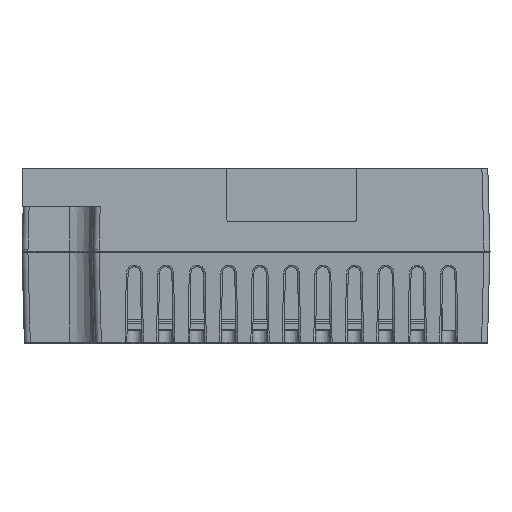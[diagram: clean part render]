
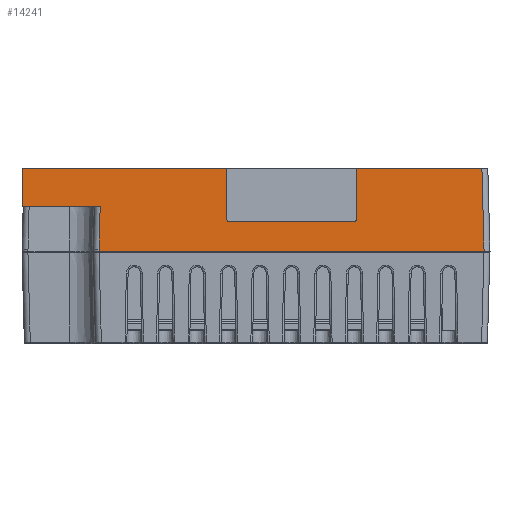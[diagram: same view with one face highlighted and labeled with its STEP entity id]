
A CAD part, left-side view. The second image highlights one B-rep face of the part: STEP entity #14241.
In plain terms, the highlighted planar face has unit normal (-1, 0, 0.026).
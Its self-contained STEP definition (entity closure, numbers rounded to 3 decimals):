
#758 = VERTEX_POINT ( 'NONE', #13399 ) ;
#1637 = VERTEX_POINT ( 'NONE', #1828 ) ;
#1828 = CARTESIAN_POINT ( 'NONE',  ( 0.144, 44.5, 5.503 ) ) ;
#1846 = EDGE_CURVE ( 'NONE', #4506, #6781, #22073, .T. ) ;
#2001 = LINE ( 'NONE', #32706, #17920 ) ;
#2066 = VERTEX_POINT ( 'NONE', #22941 ) ;
#2739 = EDGE_CURVE ( 'NONE', #6224, #6781, #31499, .T. ) ;
#2807 = CARTESIAN_POINT ( 'NONE',  ( 0.144, 44., 5.503 ) ) ;
#3586 = ORIENTED_EDGE ( 'NONE', *, *, #1846, .F. ) ;
#3678 = EDGE_CURVE ( 'NONE', #21504, #13256, #19893, .T. ) ;
#3703 = CARTESIAN_POINT ( 'NONE',  ( 0.196, 8.5, 7.5 ) ) ;
#3931 = CARTESIAN_POINT ( 'NONE',  ( 0.473, 22.5, 18.045 ) ) ;
#4506 = VERTEX_POINT ( 'NONE', #33356 ) ;
#4880 = ORIENTED_EDGE ( 'NONE', *, *, #29630, .T. ) ;
#5146 = ORIENTED_EDGE ( 'NONE', *, *, #37534, .T. ) ;
#6014 = DIRECTION ( 'NONE',  ( -0.026, 0., -1. ) ) ;
#6224 = VERTEX_POINT ( 'NONE', #21413 ) ;
#6593 = DIRECTION ( 'NONE',  ( 0.026, 0.026, 0.999 ) ) ;
#6781 = VERTEX_POINT ( 'NONE', #7842 ) ;
#7139 = AXIS2_PLACEMENT_3D ( 'NONE', #2807, #25112, #6014 ) ;
#7664 = CARTESIAN_POINT ( 'NONE',  ( 0., 79., 0. ) ) ;
#7689 = ORIENTED_EDGE ( 'NONE', *, *, #13937, .T. ) ;
#7842 = CARTESIAN_POINT ( 'NONE',  ( 0.196, 79., 7.5 ) ) ;
#8104 = CARTESIAN_POINT ( 'NONE',  ( 0., 0., 0. ) ) ;
#9885 = DIRECTION ( 'NONE',  ( 0., -1., 0. ) ) ;
#10781 = LINE ( 'NONE', #31094, #27800 ) ;
#10869 = EDGE_CURVE ( 'NONE', #6224, #2066, #22805, .T. ) ;
#11223 = LINE ( 'NONE', #3931, #26224 ) ;
#11287 = DIRECTION ( 'NONE',  ( -1., 0., 0.026 ) ) ;
#11411 = VECTOR ( 'NONE', #9885, 1000. ) ;
#11531 = LINE ( 'NONE', #14015, #33003 ) ;
#11900 = DIRECTION ( 'NONE',  ( 0., -1., 0. ) ) ;
#11955 = DIRECTION ( 'NONE',  ( -0.026, 0.026, -0.999 ) ) ;
#12430 = EDGE_CURVE ( 'NONE', #1637, #2066, #25749, .T. ) ;
#12617 = EDGE_CURVE ( 'NONE', #758, #21504, #11223, .T. ) ;
#13110 = ORIENTED_EDGE ( 'NONE', *, *, #12617, .F. ) ;
#13246 = ORIENTED_EDGE ( 'NONE', *, *, #12430, .T. ) ;
#13256 = VERTEX_POINT ( 'NONE', #37696 ) ;
#13399 = CARTESIAN_POINT ( 'NONE',  ( 0.144, 22.5, 5.503 ) ) ;
#13542 = DIRECTION ( 'NONE',  ( 0.026, 0., 1. ) ) ;
#13937 = EDGE_CURVE ( 'NONE', #36682, #13256, #25630, .T. ) ;
#14015 = CARTESIAN_POINT ( 'NONE',  ( 0., 0., 0. ) ) ;
#14241 = ADVANCED_FACE ( 'NONE', ( #14637 ), #27217, .T. ) ;
#14335 = VECTOR ( 'NONE', #11900, 1000. ) ;
#14637 = FACE_OUTER_BOUND ( 'NONE', #26757, .T. ) ;
#15144 = CARTESIAN_POINT ( 'NONE',  ( 0., 44.5, 0. ) ) ;
#15541 = VECTOR ( 'NONE', #39405, 1000. ) ;
#16090 = ORIENTED_EDGE ( 'NONE', *, *, #3678, .F. ) ;
#17227 = DIRECTION ( 'NONE',  ( 0., -1., 0. ) ) ;
#17251 = VECTOR ( 'NONE', #18340, 1000. ) ;
#17850 = DIRECTION ( 'NONE',  ( -1., 0., 0.026 ) ) ;
#17920 = VECTOR ( 'NONE', #35857, 1000. ) ;
#18333 = CARTESIAN_POINT ( 'NONE',  ( 0.367, 0., 14. ) ) ;
#18340 = DIRECTION ( 'NONE',  ( 0.026, 0., 1. ) ) ;
#19505 = CARTESIAN_POINT ( 'NONE',  ( 0.367, 0., 14. ) ) ;
#19893 = LINE ( 'NONE', #19505, #11411 ) ;
#21413 = CARTESIAN_POINT ( 'NONE',  ( 0.367, 79., 14. ) ) ;
#21504 = VERTEX_POINT ( 'NONE', #31828 ) ;
#22063 = CIRCLE ( 'NONE', #29169, 0.5 ) ;
#22073 = LINE ( 'NONE', #3703, #37999 ) ;
#22454 = ORIENTED_EDGE ( 'NONE', *, *, #2739, .T. ) ;
#22805 = LINE ( 'NONE', #18333, #14335 ) ;
#22941 = CARTESIAN_POINT ( 'NONE',  ( 0.367, 44.5, 14. ) ) ;
#23326 = EDGE_CURVE ( 'NONE', #1637, #29530, #39451, .T. ) ;
#25112 = DIRECTION ( 'NONE',  ( -1., 0., 0.026 ) ) ;
#25630 = LINE ( 'NONE', #25698, #32106 ) ;
#25698 = CARTESIAN_POINT ( 'NONE',  ( -0.001, 0.999, -0.026 ) ) ;
#25749 = LINE ( 'NONE', #15144, #17251 ) ;
#26224 = VECTOR ( 'NONE', #13542, 1000. ) ;
#26757 = EDGE_LOOP ( 'NONE', ( #16090, #13110, #36212, #40912, #29434, #13246, #29198, #22454, #3586, #4880, #5146, #7689 ) ) ;
#27217 = PLANE ( 'NONE',  #36051 ) ;
#27800 = VECTOR ( 'NONE', #11955, 1000. ) ;
#27802 = VERTEX_POINT ( 'NONE', #35908 ) ;
#29169 = AXIS2_PLACEMENT_3D ( 'NONE', #36906, #17850, #40091 ) ;
#29198 = ORIENTED_EDGE ( 'NONE', *, *, #10869, .F. ) ;
#29209 = DIRECTION ( 'NONE',  ( 0., 1., 0. ) ) ;
#29434 = ORIENTED_EDGE ( 'NONE', *, *, #23326, .F. ) ;
#29530 = VERTEX_POINT ( 'NONE', #30534 ) ;
#29630 = EDGE_CURVE ( 'NONE', #4506, #27802, #10781, .T. ) ;
#30534 = CARTESIAN_POINT ( 'NONE',  ( 0.131, 44., 5.003 ) ) ;
#31094 = CARTESIAN_POINT ( 'NONE',  ( 0.045, 65.955, 1.726 ) ) ;
#31183 = CARTESIAN_POINT ( 'NONE',  ( 0.131, 23., 5.003 ) ) ;
#31190 = VERTEX_POINT ( 'NONE', #31183 ) ;
#31499 = LINE ( 'NONE', #7664, #15541 ) ;
#31828 = CARTESIAN_POINT ( 'NONE',  ( 0.367, 22.5, 14. ) ) ;
#32106 = VECTOR ( 'NONE', #6593, 1000. ) ;
#32706 = CARTESIAN_POINT ( 'NONE',  ( 0.131, 44., 5.003 ) ) ;
#33003 = VECTOR ( 'NONE', #17227, 1000. ) ;
#33356 = CARTESIAN_POINT ( 'NONE',  ( 0.196, 65.804, 7.5 ) ) ;
#33624 = DIRECTION ( 'NONE',  ( 0.026, 0., 1. ) ) ;
#35857 = DIRECTION ( 'NONE',  ( 0., -1., 0. ) ) ;
#35908 = CARTESIAN_POINT ( 'NONE',  ( 0., 66., 0. ) ) ;
#36051 = AXIS2_PLACEMENT_3D ( 'NONE', #8104, #11287, #33624 ) ;
#36158 = EDGE_CURVE ( 'NONE', #31190, #758, #22063, .T. ) ;
#36212 = ORIENTED_EDGE ( 'NONE', *, *, #36158, .F. ) ;
#36682 = VERTEX_POINT ( 'NONE', #39906 ) ;
#36906 = CARTESIAN_POINT ( 'NONE',  ( 0.144, 23., 5.503 ) ) ;
#37534 = EDGE_CURVE ( 'NONE', #27802, #36682, #11531, .T. ) ;
#37696 = CARTESIAN_POINT ( 'NONE',  ( 0.367, 1.366, 14. ) ) ;
#37999 = VECTOR ( 'NONE', #29209, 1000. ) ;
#38916 = EDGE_CURVE ( 'NONE', #29530, #31190, #2001, .T. ) ;
#39405 = DIRECTION ( 'NONE',  ( -0.026, 0., -1. ) ) ;
#39451 = CIRCLE ( 'NONE', #7139, 0.5 ) ;
#39906 = CARTESIAN_POINT ( 'NONE',  ( 0., 1., 0. ) ) ;
#40091 = DIRECTION ( 'NONE',  ( 0.026, 0., 1. ) ) ;
#40912 = ORIENTED_EDGE ( 'NONE', *, *, #38916, .F. ) ;
